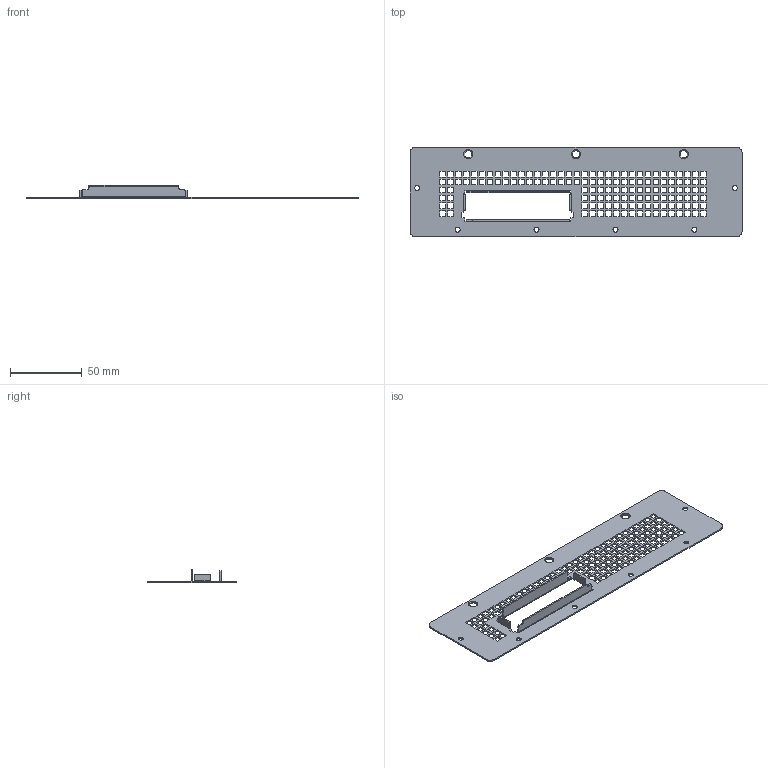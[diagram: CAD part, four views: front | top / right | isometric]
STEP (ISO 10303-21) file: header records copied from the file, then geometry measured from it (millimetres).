
FILE_DESCRIPTION((''),'2;1');
FILE_NAME('OCP3-FIX-FACE-INSERT-DSFF-TSFF','2025-07-16T16:26:49',('T_Dawson'),('Dell Technologies'),'CREO PARAMETRIC BY PTC INC, 2023294','CREO PARAMETRIC BY PTC INC, 2023294','');
FILE_SCHEMA(('AUTOMOTIVE_DESIGN { 1 0 10303 214 1 1 1 1 }'));
Length unit declared in the file: millimetre
Products named in the file (1): OCP3-FIX-FACE-INSERT-DSFF-TSFF
Bounding box: 231.2 x 62.58 x 9.3 mm (x, y, z)
Volume: 11777.1 mm3; surface area: 26742.8 mm2
Topology: 1 solids, 1 shells, 672 faces, 1976 edges, 1327 vertices
Faces by surface type: plane 620, cylinder 46, cone 6
Entity records: 30907 total; most frequent: CARTESIAN_POINT 4142, ORIENTED_EDGE 3944, DIRECTION 3713, PRESENTATION_STYLE_ASSIGNMENT 1988, STYLED_ITEM 1988, CURVE_STYLE 1987, EDGE_CURVE 1972, VECTOR 1889
